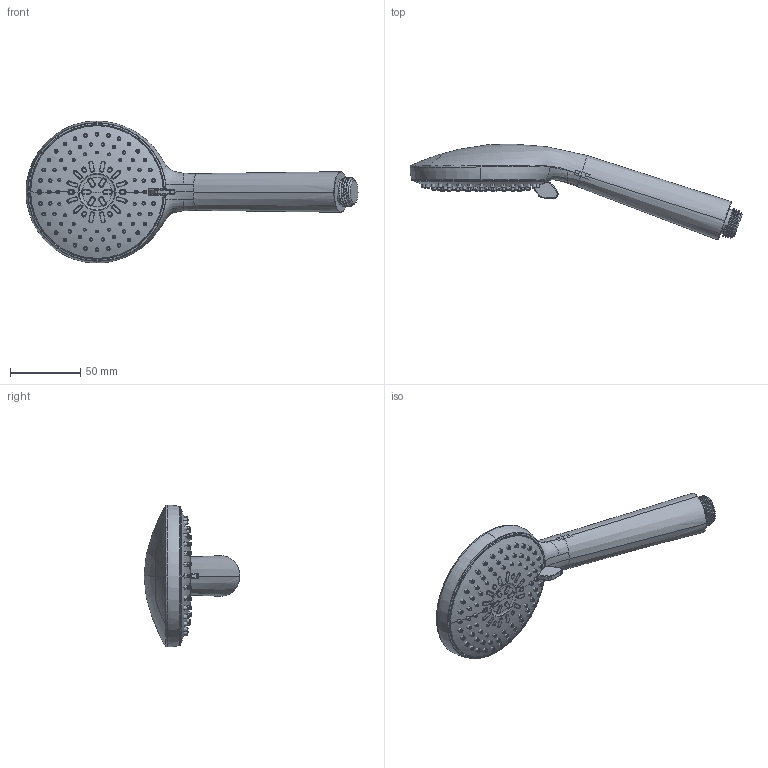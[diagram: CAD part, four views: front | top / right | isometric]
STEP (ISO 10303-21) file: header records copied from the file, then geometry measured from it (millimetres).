
FILE_DESCRIPTION((''),'2;1');
FILE_NAME('59343--00_SCRINKWRAP_02','2026-09-07T15:17:39',('clra1'),(''),'CREO PARAMETRIC BY PTC INC, 2022244','CREO PARAMETRIC BY PTC INC, 2022244','');
FILE_SCHEMA(('CONFIG_CONTROL_DESIGN'));
Products named in the file (1): 59343--00_SCRINKWRAP_02
Bounding box: 237.07 x 68.55 x 101.39 mm (x, y, z)
Surface area: 39324.6 mm2 (no closed solid volume)
Topology: 0 solids, 119 shells, 820 faces, 2286 edges, 1567 vertices
Faces by surface type: torus 219, cone 210, bspline 204, plane 137, cylinder 26, revolution 21, extrusion 3
Entity records: 47868 total; most frequent: CARTESIAN_POINT 29041, ORIENTED_EDGE 4046, DIRECTION 3469, EDGE_CURVE 2284, VERTEX_POINT 1567, AXIS2_PLACEMENT_3D 1533, B_SPLINE_CURVE_WITH_KNOTS 988, CIRCLE 941
